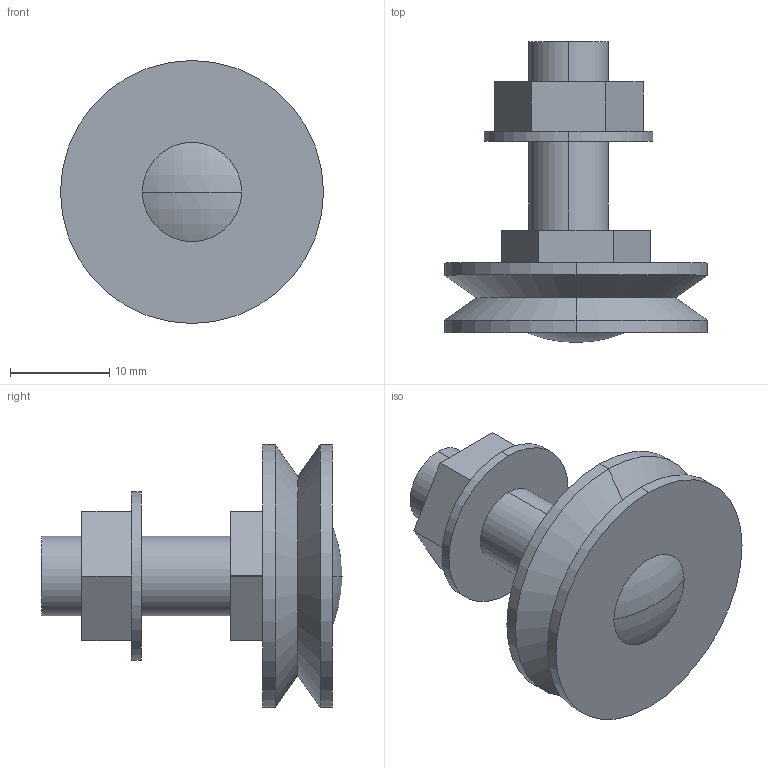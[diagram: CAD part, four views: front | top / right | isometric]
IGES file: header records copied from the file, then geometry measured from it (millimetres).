
Start section: 3D InterOp IGES (v. 2019 1.0.2), Spatial Corp. Copyright (c) 1999-2017.
Global section: file name: GLJ 265 E.igs; native system: Spatial Corp.; preprocessor: 3D InterOp GENERIC/IGES 3.0; author: Noname; organization: Noname; date: 20220628.170610; units: millimetre
Bounding box: 26.5 x 30.3 x 26.5 mm (x, y, z)
Surface area: 3028.6 mm2 (no closed solid volume)
Topology: 0 solids, 0 shells, 42 faces, 188 edges, 188 vertices
Faces by surface type: extrusion 26, revolution 16
